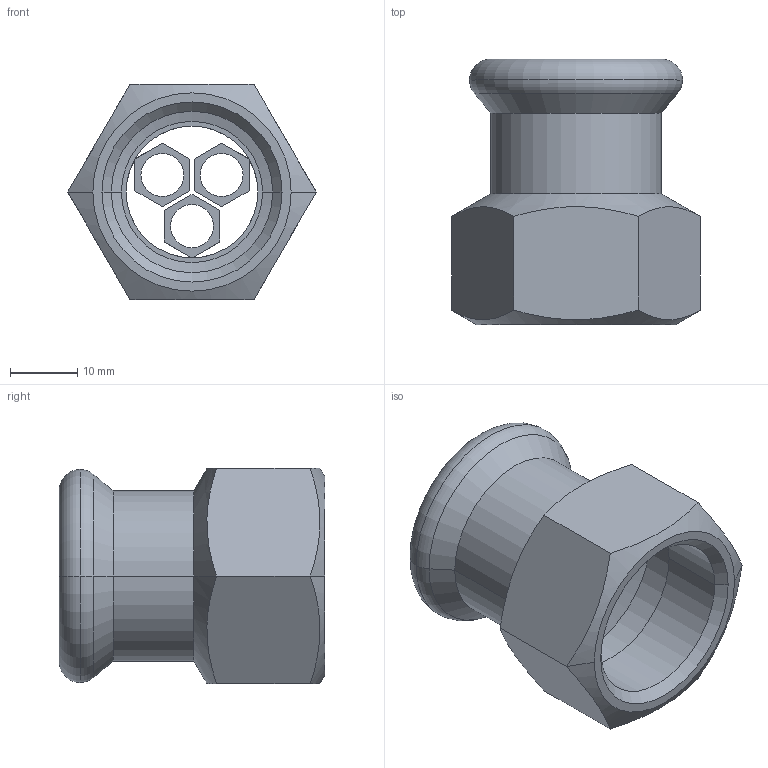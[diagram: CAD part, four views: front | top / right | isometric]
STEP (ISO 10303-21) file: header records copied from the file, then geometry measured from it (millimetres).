
FILE_DESCRIPTION(('OneSpaceDesigner STEP Export'),'2;1');
FILE_NAME('R2702 22xRp3-4.stp','2010-06-08T14:11:45',(''),(''),'OneSpace Designer STEP processor for AP214 (Solid Model)','OneSpace Modeling 15.00A 14-Mar-2007 (C) CoCreate Software GmbH','');
FILE_SCHEMA(('AUTOMOTIVE_DESIGN { 1 0 10303 214 1 1 1 1 }'));
Length unit declared in the file: millimetre
Products named in the file (2): R2702_22xRp3-4
Assembly tree (1 placements, depth 2):
  R2702_22xRp3-4
    R2702_22xRp3-4
Bounding box: 36.95 x 39.5 x 32 mm (x, y, z)
Volume: 11265.7 mm3; surface area: 8283 mm2
Topology: 1 solids, 1 shells, 73 faces, 183 edges, 114 vertices
Faces by surface type: plane 34, cylinder 21, cone 14, torus 4
Entity records: 2863 total; most frequent: CARTESIAN_POINT 1221, ORIENTED_EDGE 366, DIRECTION 283, EDGE_CURVE 183, VERTEX_POINT 114, VECTOR 107, LINE 107, AXIS2_PLACEMENT_3D 88
